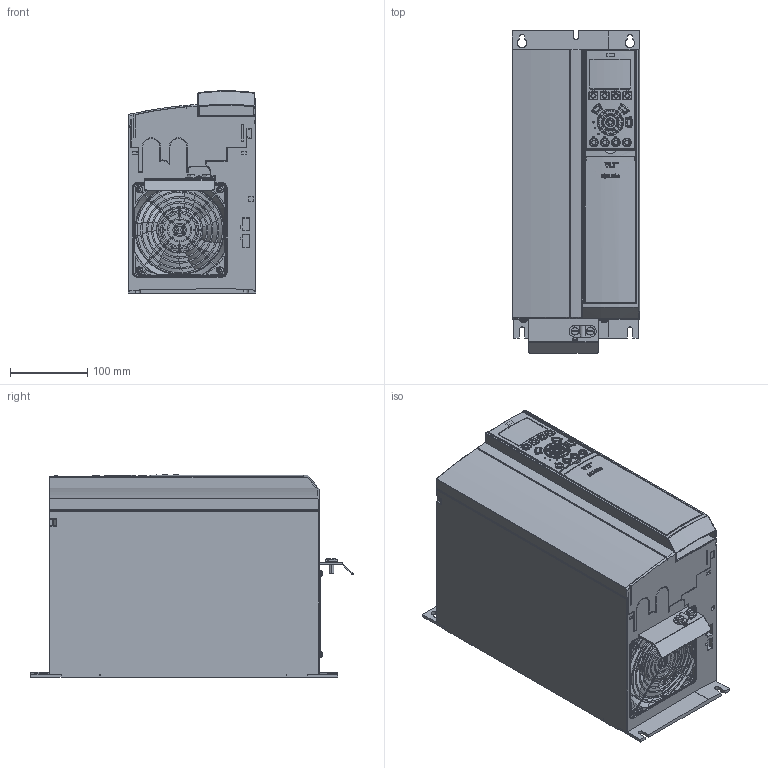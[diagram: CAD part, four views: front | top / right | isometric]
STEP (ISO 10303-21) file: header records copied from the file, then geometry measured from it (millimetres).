
FILE_DESCRIPTION((''),'2;1');
FILE_NAME('DANFOSS-FC200-B3-IP20-B-101','2007-06-14T',('janardhan.mankala'),('dan Drives A/S'),'PRO/ENGINEER BY PARAMETRIC TECHNOLOGY CORPORATION, 2006200','PRO/ENGINEER BY PARAMETRIC TECHNOLOGY CORPORATION, 2006200','');
FILE_SCHEMA(('CONFIG_CONTROL_DESIGN', 'GEOMETRIC_VALIDATION_PROPERTIES_MIM'));
Products named in the file (1): DANFOSS-FC200-B3-IP20-B-101
Bounding box: 165 x 419 x 262.51 mm (x, y, z)
Volume: 14047176.4 mm3; surface area: 529895.9 mm2
Topology: 2 solids, 19 shells, 3674 faces, 8841 edges, 5315 vertices
Faces by surface type: cylinder 1376, plane 953, bspline 543, torus 479, sphere 174, extrusion 82, cone 67
Entity records: 178801 total; most frequent: CARTESIAN_POINT 59120, ORIENTED_EDGE 17678, DIRECTION 15898, PRESENTATION_STYLE_ASSIGNMENT 10363, STYLED_ITEM 9070, CURVE_STYLE 8839, EDGE_CURVE 8839, AXIS2_PLACEMENT_3D 6107
